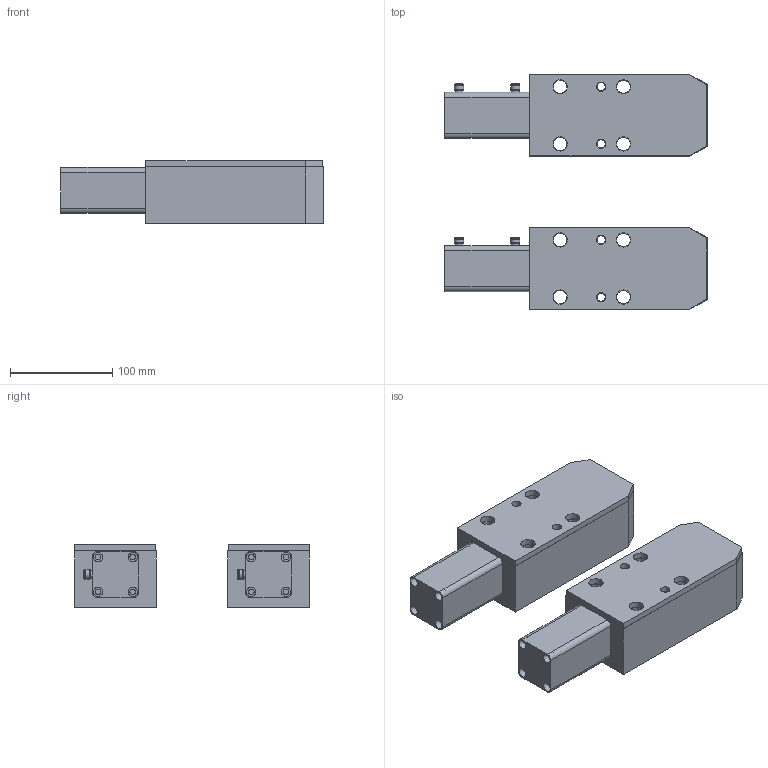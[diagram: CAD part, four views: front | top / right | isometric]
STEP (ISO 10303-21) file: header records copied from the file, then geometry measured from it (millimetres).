
FILE_DESCRIPTION(('STEP AP214'),'1');
FILE_NAME('step-1001.0032.stp','2020-12-10T08:51:40',(' '),(' '),'Spatial InterOp 3D',' ',' ');
FILE_SCHEMA(('AUTOMOTIVE_DESIGN { 1 0 10303 214 1 1 1 1 }'));
Length unit declared in the file: millimetre
Products named in the file (7): (PMS) 1001.0032; 2; 3; Assemblato; (PMI) 1001.0032; 5; 6
Assembly tree (6 placements, depth 3):
  Assemblato
    (PMS) 1001.0032
      2
      3
    (PMI) 1001.0032
      5
      6
Bounding box: 257 x 230 x 61 mm (x, y, z)
Volume: 1765874.8 mm3; surface area: 252378.3 mm2
Topology: 4 solids, 4 shells, 826 faces, 2168 edges, 1450 vertices
Faces by surface type: extrusion 398, plane 276, cylinder 134, torus 12, cone 4, sphere 2
Full cylindrical faces by diameter (mm): 5.5 x8, 7.5 x8, 8 x4, 8.5 x4, 9 x24, 13 x8, 14 x8, 19.9 x8, 32 x2
Entity records: 32074 total; most frequent: CARTESIAN_POINT 6741, ORIENTED_EDGE 4076, DIRECTION 2796, EDGE_CURVE 2038, VERTEX_POINT 1414, VECTOR 1354, B_SPLINE_CURVE_WITH_KNOTS 1196, EDGE_LOOP 1044
